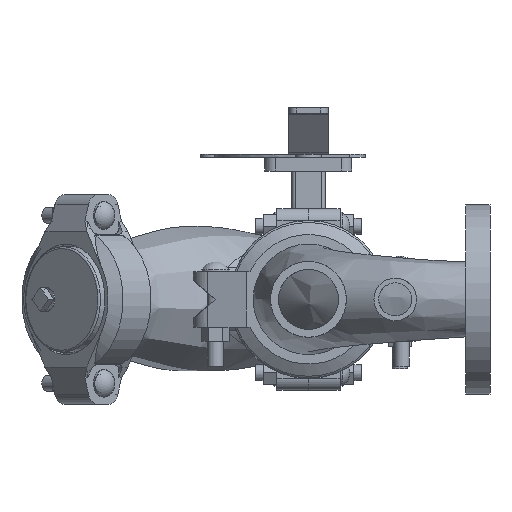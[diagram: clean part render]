
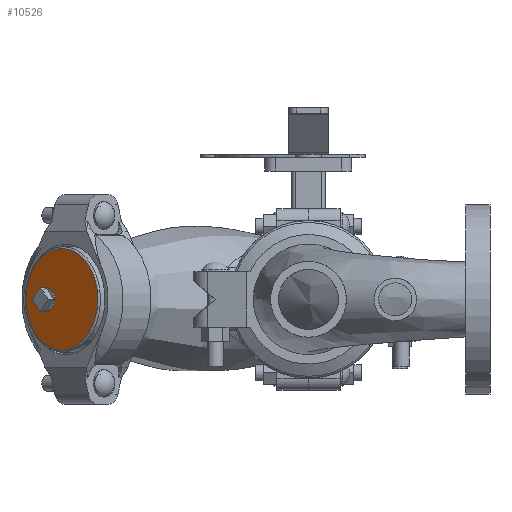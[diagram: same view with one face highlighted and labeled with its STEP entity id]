
A CAD part, front view. The second image highlights one B-rep face of the part: STEP entity #10526.
In plain terms, the highlighted planar face has unit normal (-0.707, -0.707, 0) as drawn and (1, 0, 0) by its records, which use the part's own axes.
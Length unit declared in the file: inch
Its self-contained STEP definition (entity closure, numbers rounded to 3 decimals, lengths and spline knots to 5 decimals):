
#2142=FACE_BOUND('',#3267,.T.);
#2559=FACE_OUTER_BOUND('',#3266,.T.);
#3266=EDGE_LOOP('',(#7721));
#3267=EDGE_LOOP('',(#7722));
#3944=CIRCLE('',#11358,0.375);
#3948=CIRCLE('',#11365,1.612);
#4614=VERTEX_POINT('',#19077);
#4618=VERTEX_POINT('',#19088);
#5757=EDGE_CURVE('',#4614,#4614,#3944,.T.);
#5761=EDGE_CURVE('',#4618,#4618,#3948,.T.);
#7721=ORIENTED_EDGE('',*,*,#5761,.T.);
#7722=ORIENTED_EDGE('',*,*,#5757,.T.);
#9444=PLANE('',#11366);
#10526=ADVANCED_FACE('',(#2559,#2142),#9444,.T.);
#11358=AXIS2_PLACEMENT_3D('',#19078,#13272,#13273);
#11365=AXIS2_PLACEMENT_3D('',#19089,#13286,#13287);
#11366=AXIS2_PLACEMENT_3D('',#19090,#13288,#13289);
#13272=DIRECTION('center_axis',(-1.,0.,0.));
#13273=DIRECTION('ref_axis',(0.,0.,1.));
#13286=DIRECTION('center_axis',(1.,0.,0.));
#13287=DIRECTION('ref_axis',(0.,0.,-1.));
#13288=DIRECTION('center_axis',(1.,0.,0.));
#13289=DIRECTION('ref_axis',(0.,0.,-1.));
#19077=CARTESIAN_POINT('',(1.07,0.68,-0.375));
#19078=CARTESIAN_POINT('Origin',(1.07,0.68,0.));
#19088=CARTESIAN_POINT('',(1.07,1.612,0.));
#19089=CARTESIAN_POINT('Origin',(1.07,0.,0.));
#19090=CARTESIAN_POINT('Origin',(1.07,0.,0.));
